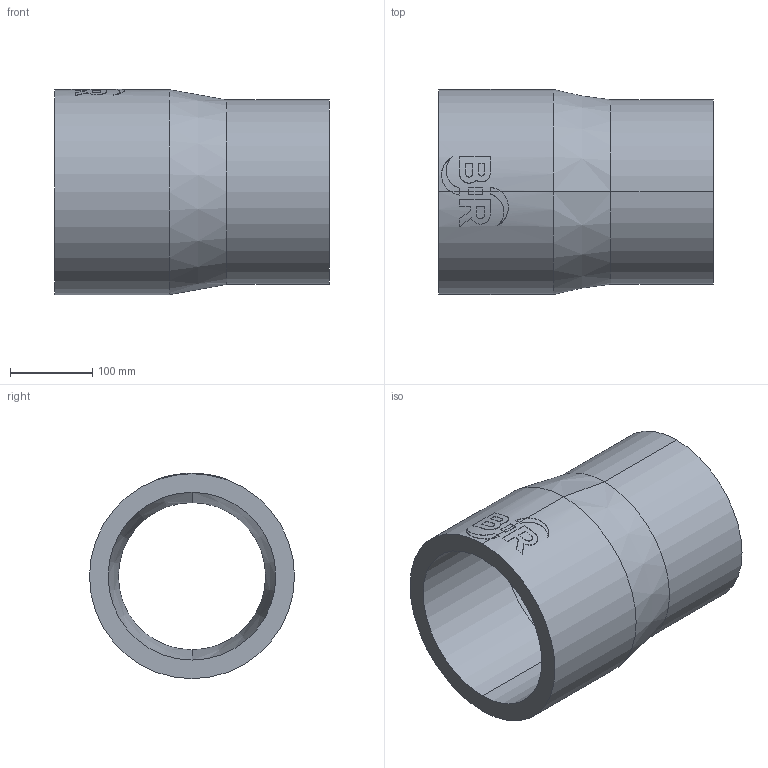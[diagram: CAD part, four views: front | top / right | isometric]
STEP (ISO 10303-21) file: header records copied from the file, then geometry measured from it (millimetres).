
FILE_DESCRIPTION (( 'STEP AP214' ), '1' );
FILE_NAME ('2323212015.STEP', '2018-07-20T09:52:20', ( '' ), ( '' ), 'SwSTEP 2.0', 'SolidWorks 2017', '' );
FILE_SCHEMA (( 'AUTOMOTIVE_DESIGN' ));
Length unit declared in the file: millimetre
Products named in the file (1): 2323212015
Bounding box: 335 x 250 x 250.46 mm (x, y, z)
Volume: 5161323.7 mm3; surface area: 485616.9 mm2
Topology: 1 solids, 1 shells, 63 faces, 160 edges, 104 vertices
Faces by surface type: cylinder 31, plane 28, cone 4
Entity records: 3357 total; most frequent: CARTESIAN_POINT 1148, ORIENTED_EDGE 320, DIRECTION 296, EDGE_CURVE 160, AXIS2_PLACEMENT_3D 112, VERTEX_POINT 104, LINE 72, VECTOR 72
